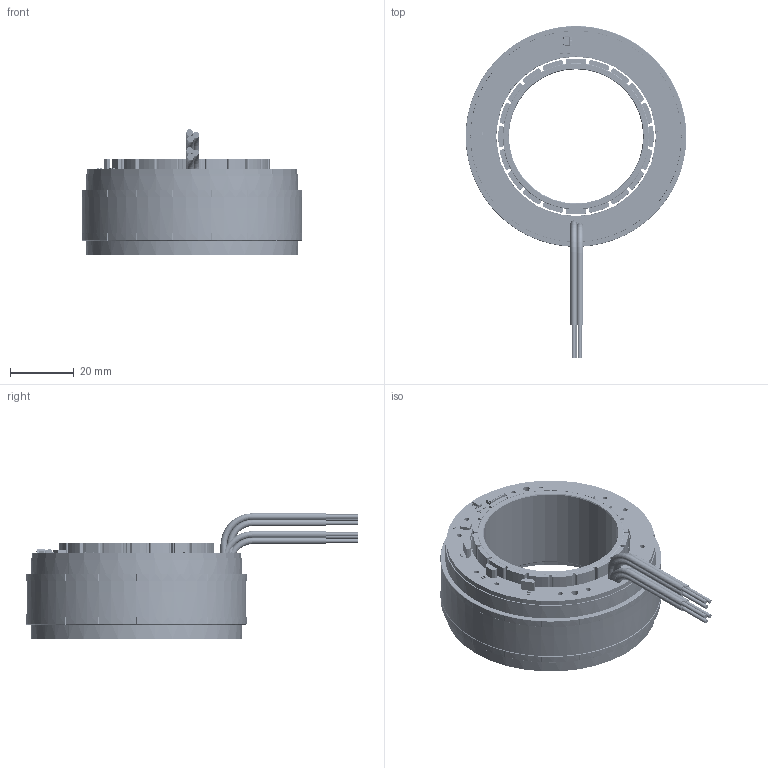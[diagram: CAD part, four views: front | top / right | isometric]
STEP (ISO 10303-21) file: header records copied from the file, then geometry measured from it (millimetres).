
FILE_DESCRIPTION (( 'STEP AP203' ), '1' );
FILE_NAME ('FL-70-16-»ô¶û.STEP', '2025-04-03T01:46:01', ( 'China' ), ( 'Microsoft' ), 'SwSTEP 2.0', 'SolidWorks 2020', '' );
FILE_SCHEMA (( 'CONFIG_CONTROL_DESIGN' ));
Length unit declared in the file: millimetre
Products named in the file (1): FL-70-16-齊嫌
Bounding box: 69 x 103.8 x 39.24 mm (x, y, z)
Surface area: 729140.1 mm2
Topology: 517 solids, 517 shells, 25095 faces, 66528 edges, 43259 vertices
Faces by surface type: plane 13884, bspline 5986, cylinder 4469, sphere 378, cone 240, torus 138
Entity records: 851521 total; most frequent: CARTESIAN_POINT 271922, ORIENTED_EDGE 132360, DIRECTION 97478, EDGE_CURVE 66180, VERTEX_POINT 43244, LINE 42510, VECTOR 42510, AXIS2_PLACEMENT_3D 27484
